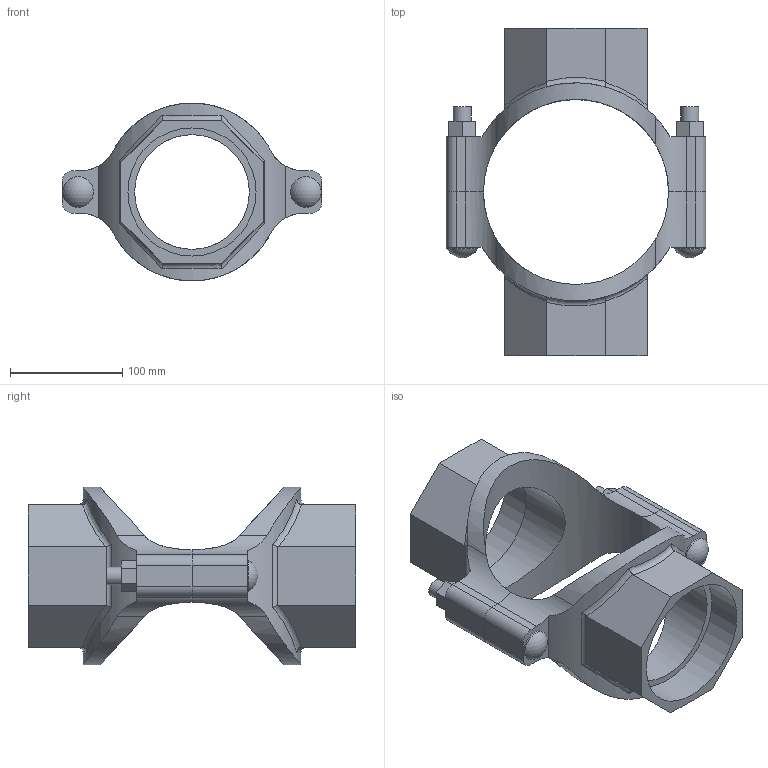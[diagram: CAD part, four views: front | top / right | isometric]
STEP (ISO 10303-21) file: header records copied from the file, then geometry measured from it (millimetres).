
FILE_DESCRIPTION(/* description */ ('VIC MECH-T BRANCH OUTLET CROSS STYLE 920N (THD)','CAx-IF Rec.Pracs.---Representation and Presentation of Product Manufacturing Information (PMI)---4.0---2014-10-13'),/* implementation_level */ '2;1');
FILE_NAME(/* name */ 'C:\Users\Vjadhav\AppData\Roaming\Autodesk\ApplicationPlugins\Back Up\Victaulic_IPS_Mechanical-Cross Outlet_Style 920N (FPT)\Victaulic_IPS_Mechanical-Cross Outlet_06.0 (165.1)x04.0x04.0 (150x100x100).stp',/* time_stamp */ '2020-08-06T19:00:41+06:00',/* author */ ('Vjadhav'),/* organization */ ('Victaulic'),/* preprocessor_version */ 'ST-DEVELOPER v17.2',/* originating_system */ 'Autodesk Inventor 2019',/* authorisation */ '');
FILE_SCHEMA (('AP242_MANAGED_MODEL_BASED_3D_ENGINEERING_MIM_LF { 1 0 10303 442 1 1 4 }'));
Length unit declared in the file: inch
Products named in the file (3): 920NT-06.0 (165.1)x04.0x04.0; 920T-06.0 (165.1)x04.0; 920T-06.0 (165.1)x04.0_1
Assembly tree (2 placements, depth 2):
  920NT-06.0 (165.1)x04.0x04.0
    920T-06.0 (165.1)x04.0
    920T-06.0 (165.1)x04.0_1
Bounding box: 231.9 x 292.1 x 158.74 mm (x, y, z)
Volume: 1181400.1 mm3; surface area: 236413.8 mm2
Topology: 2 solids, 2 shells, 128 faces, 338 edges, 228 vertices
Faces by surface type: plane 68, cylinder 46, bspline 8, torus 4, sphere 2
Full cylindrical faces by diameter (mm): 15.875 x4, 27.496 x2, 102.394 x2, 114.3 x2
Entity records: 5070 total; most frequent: CARTESIAN_POINT 1665, ORIENTED_EDGE 676, DIRECTION 628, EDGE_CURVE 338, VERTEX_POINT 228, AXIS2_PLACEMENT_3D 223, LINE 182, VECTOR 182
